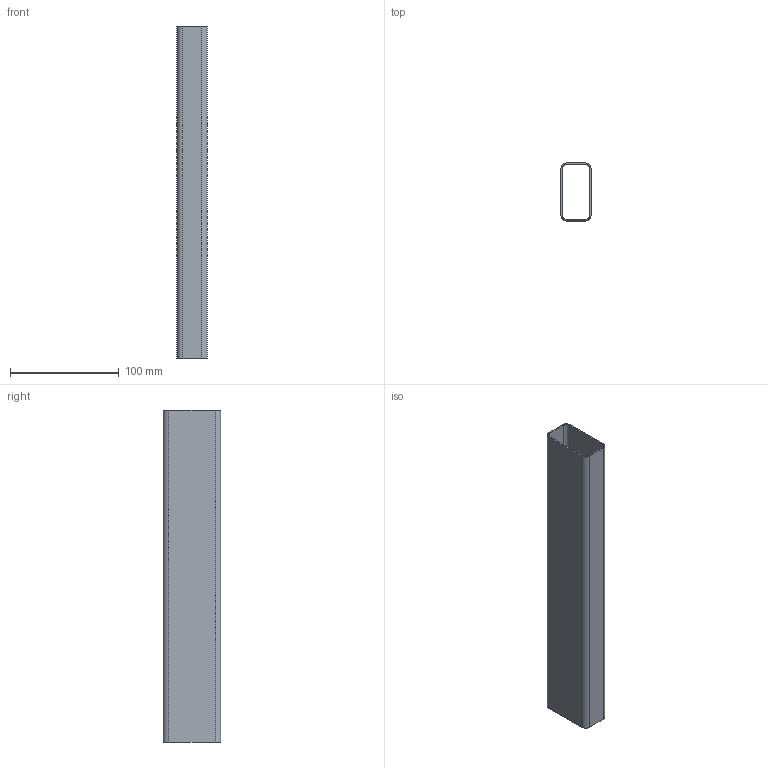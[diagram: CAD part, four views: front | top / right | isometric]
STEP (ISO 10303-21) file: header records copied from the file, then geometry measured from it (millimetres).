
FILE_DESCRIPTION (( 'STEP AP214' ), '1' );
FILE_NAME ('DRP-002-0001-04.STEP', '2011-12-07T21:20:43', ( 'Allred & Associates' ), ( 'Allred & Associates' ), 'SwSTEP 2.0', 'SolidWorks 2011', '' );
FILE_SCHEMA (( 'AUTOMOTIVE_DESIGN' ));
Length unit declared in the file: inch
Products named in the file (1): DRP-002-0001-04
Bounding box: 27.69 x 52.83 x 304.8 mm (x, y, z)
Volume: 57574.2 mm3; surface area: 91045.8 mm2
Topology: 1 solids, 1 shells, 18 faces, 48 edges, 32 vertices
Faces by surface type: plane 10, cylinder 8
Entity records: 612 total; most frequent: DIRECTION 102, CARTESIAN_POINT 99, ORIENTED_EDGE 96, EDGE_CURVE 48, AXIS2_PLACEMENT_3D 35, VERTEX_POINT 32, VECTOR 32, LINE 32
